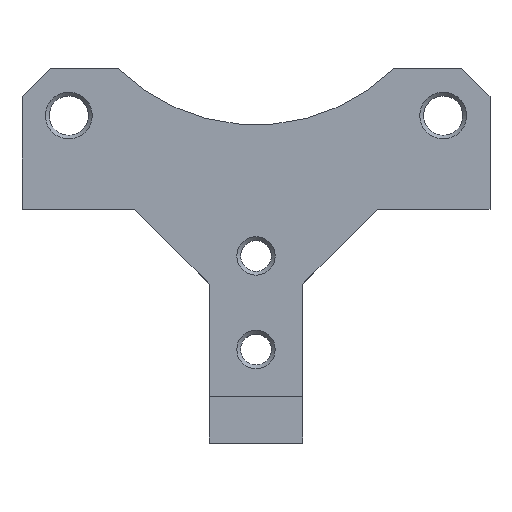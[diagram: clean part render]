
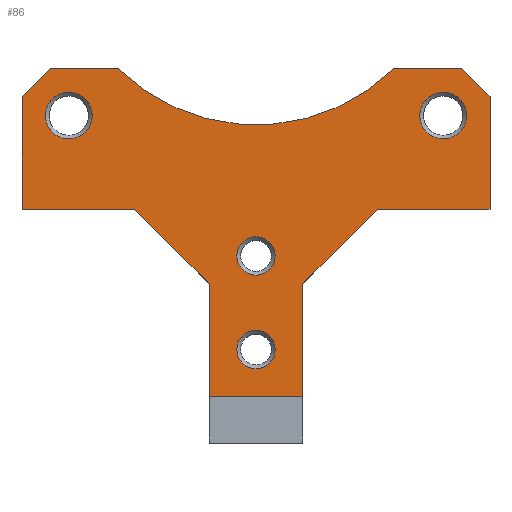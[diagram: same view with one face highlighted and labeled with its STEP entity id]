
A CAD part, top view. The second image highlights one B-rep face of the part: STEP entity #86.
In plain terms, the highlighted planar face has unit normal (0, 0, 1).
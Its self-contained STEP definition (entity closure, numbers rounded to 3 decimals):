
#86=ADVANCED_FACE('',(#227,#228,#229,#230,#231),#117,.T.);
#117=PLANE('',#624);
#140=LINE('',#853,#186);
#142=LINE('',#857,#188);
#153=LINE('',#879,#199);
#154=LINE('',#881,#200);
#156=LINE('',#885,#202);
#159=LINE('',#893,#205);
#161=LINE('',#902,#207);
#162=LINE('',#917,#208);
#163=LINE('',#919,#209);
#164=LINE('',#921,#210);
#165=LINE('',#922,#211);
#166=LINE('',#924,#212);
#167=LINE('',#926,#213);
#186=VECTOR('',#681,1.);
#188=VECTOR('',#685,1.);
#199=VECTOR('',#702,1.);
#200=VECTOR('',#705,1.);
#202=VECTOR('',#709,1.);
#205=VECTOR('',#718,1.);
#207=VECTOR('',#728,1.);
#208=VECTOR('',#745,1.);
#209=VECTOR('',#746,1.);
#210=VECTOR('',#747,1.);
#211=VECTOR('',#748,1.);
#212=VECTOR('',#749,1.);
#213=VECTOR('',#750,1.);
#227=FACE_BOUND('',#279,.T.);
#228=FACE_BOUND('',#280,.T.);
#229=FACE_BOUND('',#281,.T.);
#230=FACE_BOUND('',#282,.T.);
#231=FACE_BOUND('',#283,.T.);
#279=EDGE_LOOP('',(#380));
#280=EDGE_LOOP('',(#381));
#281=EDGE_LOOP('',(#382));
#282=EDGE_LOOP('',(#383));
#283=EDGE_LOOP('',(#384,#385,#386,#387,#388,#389,#390,#391,#392,#393,#394,
#395,#396,#397));
#380=ORIENTED_EDGE('',*,*,#552,.T.);
#381=ORIENTED_EDGE('',*,*,#553,.T.);
#382=ORIENTED_EDGE('',*,*,#554,.T.);
#383=ORIENTED_EDGE('',*,*,#555,.T.);
#384=ORIENTED_EDGE('',*,*,#556,.F.);
#385=ORIENTED_EDGE('',*,*,#557,.T.);
#386=ORIENTED_EDGE('',*,*,#558,.T.);
#387=ORIENTED_EDGE('',*,*,#527,.F.);
#388=ORIENTED_EDGE('',*,*,#559,.F.);
#389=ORIENTED_EDGE('',*,*,#560,.T.);
#390=ORIENTED_EDGE('',*,*,#561,.F.);
#391=ORIENTED_EDGE('',*,*,#538,.F.);
#392=ORIENTED_EDGE('',*,*,#549,.F.);
#393=ORIENTED_EDGE('',*,*,#545,.F.);
#394=ORIENTED_EDGE('',*,*,#543,.F.);
#395=ORIENTED_EDGE('',*,*,#541,.F.);
#396=ORIENTED_EDGE('',*,*,#539,.F.);
#397=ORIENTED_EDGE('',*,*,#525,.F.);
#472=VERTEX_POINT('',#852);
#473=VERTEX_POINT('',#854);
#474=VERTEX_POINT('',#858);
#475=VERTEX_POINT('',#859);
#480=VERTEX_POINT('',#876);
#481=VERTEX_POINT('',#878);
#482=VERTEX_POINT('',#882);
#483=VERTEX_POINT('',#886);
#484=VERTEX_POINT('',#890);
#485=VERTEX_POINT('',#894);
#490=VERTEX_POINT('',#910);
#491=VERTEX_POINT('',#912);
#492=VERTEX_POINT('',#914);
#493=VERTEX_POINT('',#916);
#494=VERTEX_POINT('',#918);
#495=VERTEX_POINT('',#920);
#496=VERTEX_POINT('',#923);
#497=VERTEX_POINT('',#925);
#525=EDGE_CURVE('',#472,#473,#140,.T.);
#527=EDGE_CURVE('',#474,#475,#142,.T.);
#538=EDGE_CURVE('',#481,#480,#153,.T.);
#539=EDGE_CURVE('',#473,#482,#154,.T.);
#541=EDGE_CURVE('',#482,#483,#156,.T.);
#543=EDGE_CURVE('',#483,#484,#579,.T.);
#545=EDGE_CURVE('',#484,#485,#159,.T.);
#549=EDGE_CURVE('',#485,#481,#161,.T.);
#552=EDGE_CURVE('',#490,#490,#584,.T.);
#553=EDGE_CURVE('',#491,#491,#585,.T.);
#554=EDGE_CURVE('',#492,#492,#586,.T.);
#555=EDGE_CURVE('',#493,#493,#587,.T.);
#556=EDGE_CURVE('',#494,#472,#162,.T.);
#557=EDGE_CURVE('',#494,#495,#163,.T.);
#558=EDGE_CURVE('',#495,#475,#164,.T.);
#559=EDGE_CURVE('',#496,#474,#165,.T.);
#560=EDGE_CURVE('',#496,#497,#166,.T.);
#561=EDGE_CURVE('',#480,#497,#167,.T.);
#579=CIRCLE('',#610,21.);
#584=CIRCLE('',#620,2.05);
#585=CIRCLE('',#621,2.05);
#586=CIRCLE('',#622,2.5);
#587=CIRCLE('',#623,2.5);
#610=AXIS2_PLACEMENT_3D('',#889,#713,#714);
#620=AXIS2_PLACEMENT_3D('',#909,#737,#738);
#621=AXIS2_PLACEMENT_3D('',#911,#739,#740);
#622=AXIS2_PLACEMENT_3D('',#913,#741,#742);
#623=AXIS2_PLACEMENT_3D('',#915,#743,#744);
#624=AXIS2_PLACEMENT_3D('',#927,#751,#752);
#681=DIRECTION('',(0.,1.,0.));
#685=DIRECTION('',(-1.,0.,0.));
#702=DIRECTION('',(0.,-1.,0.));
#705=DIRECTION('',(0.707,0.707,0.));
#709=DIRECTION('',(1.,0.,0.));
#713=DIRECTION('',(0.,0.,1.));
#714=DIRECTION('',(1.,0.,0.));
#718=DIRECTION('',(1.,0.,0.));
#728=DIRECTION('',(0.707,-0.707,0.));
#737=DIRECTION('',(0.,0.,-1.));
#738=DIRECTION('',(1.,0.,0.));
#739=DIRECTION('',(0.,0.,-1.));
#740=DIRECTION('',(1.,0.,0.));
#741=DIRECTION('',(0.,0.,-1.));
#742=DIRECTION('',(1.,0.,0.));
#743=DIRECTION('',(0.,0.,-1.));
#744=DIRECTION('',(1.,0.,0.));
#745=DIRECTION('',(-1.,0.,0.));
#746=DIRECTION('',(0.707,-0.707,0.));
#747=DIRECTION('',(0.,-1.,0.));
#748=DIRECTION('',(0.,-1.,0.));
#749=DIRECTION('',(0.707,0.707,0.));
#750=DIRECTION('',(-1.,0.,0.));
#751=DIRECTION('',(0.,0.,1.));
#752=DIRECTION('',(1.,0.,0.));
#852=CARTESIAN_POINT('',(-25.,-30.,3.5));
#853=CARTESIAN_POINT('',(-25.,-55.,3.5));
#854=CARTESIAN_POINT('',(-25.,-18.,3.5));
#857=CARTESIAN_POINT('',(25.,-50.,3.5));
#858=CARTESIAN_POINT('',(5.,-50.,3.5));
#859=CARTESIAN_POINT('',(-5.,-50.,3.5));
#876=CARTESIAN_POINT('',(25.,-30.,3.5));
#878=CARTESIAN_POINT('',(25.,-18.,3.5));
#879=CARTESIAN_POINT('',(25.,-18.,3.5));
#881=CARTESIAN_POINT('',(-25.,-18.,3.5));
#882=CARTESIAN_POINT('',(-22.,-15.,3.5));
#885=CARTESIAN_POINT('',(-22.,-15.,3.5));
#886=CARTESIAN_POINT('',(-14.697,-15.,3.5));
#889=CARTESIAN_POINT('',(0.,0.,3.5));
#890=CARTESIAN_POINT('',(14.697,-15.,3.5));
#893=CARTESIAN_POINT('',(14.697,-15.,3.5));
#894=CARTESIAN_POINT('',(22.,-15.,3.5));
#902=CARTESIAN_POINT('',(22.,-15.,3.5));
#909=CARTESIAN_POINT('',(0.,-45.,3.5));
#910=CARTESIAN_POINT('',(2.05,-45.,3.5));
#911=CARTESIAN_POINT('',(0.,-35.,3.5));
#912=CARTESIAN_POINT('',(2.05,-35.,3.5));
#913=CARTESIAN_POINT('',(-20.,-20.,3.5));
#914=CARTESIAN_POINT('',(-17.5,-20.,3.5));
#915=CARTESIAN_POINT('',(20.,-20.,3.5));
#916=CARTESIAN_POINT('',(22.5,-20.,3.5));
#917=CARTESIAN_POINT('',(0.,-30.,3.5));
#918=CARTESIAN_POINT('',(-13.,-30.,3.5));
#919=CARTESIAN_POINT('',(-5.,-38.,3.5));
#920=CARTESIAN_POINT('',(-5.,-38.,3.5));
#921=CARTESIAN_POINT('',(-5.,0.,3.5));
#922=CARTESIAN_POINT('',(5.,0.,3.5));
#923=CARTESIAN_POINT('',(5.,-38.,3.5));
#924=CARTESIAN_POINT('',(13.,-30.,3.5));
#925=CARTESIAN_POINT('',(13.,-30.,3.5));
#926=CARTESIAN_POINT('',(0.,-30.,3.5));
#927=CARTESIAN_POINT('',(0.,0.,3.5));
